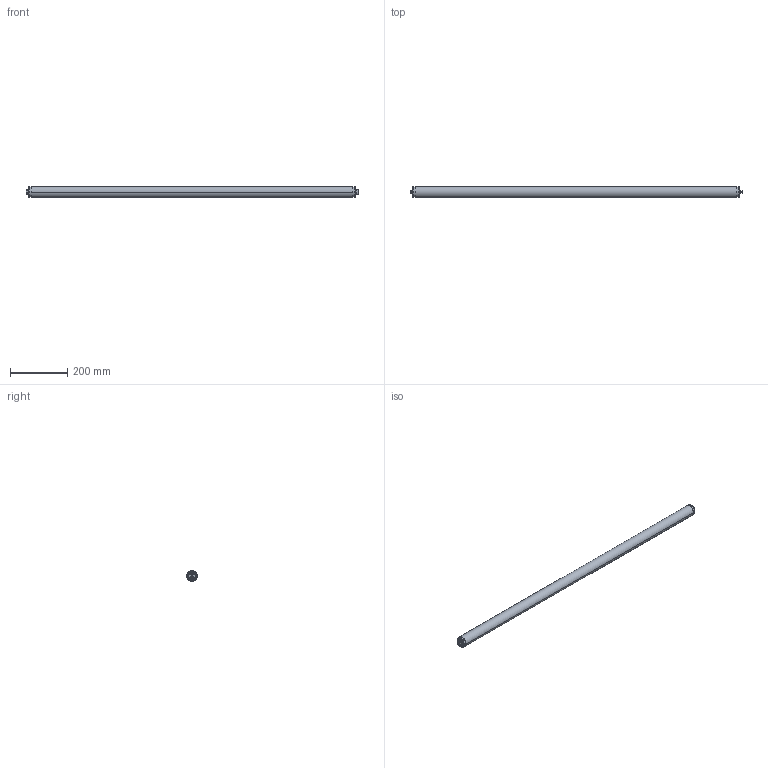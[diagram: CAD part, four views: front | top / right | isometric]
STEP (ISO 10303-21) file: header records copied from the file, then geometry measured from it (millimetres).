
FILE_DESCRIPTION (( 'STEP AP203' ), '1' );
FILE_NAME ('FRL-48-1X-T12HO STEP.STEP', '2014-03-04T15:03:18', ( 'Rob' ), ( '' ), 'SwSTEP 2.0', 'SolidWorks 2013', '' );
FILE_SCHEMA (( 'CONFIG_CONTROL_DESIGN' ));
Length unit declared in the file: inch
Products named in the file (1): FRL-48-1X-T12HO STEP
Bounding box: 1158.24 x 38.1 x 38.1 mm (x, y, z)
Volume: 1299637.1 mm3; surface area: 140408.4 mm2
Topology: 1 solids, 1 shells, 132 faces, 316 edges, 200 vertices
Faces by surface type: plane 64, cylinder 48, torus 16, cone 4
Entity records: 3927 total; most frequent: DIRECTION 718, CARTESIAN_POINT 673, ORIENTED_EDGE 632, EDGE_CURVE 316, AXIS2_PLACEMENT_3D 277, VERTEX_POINT 200, LINE 164, VECTOR 164
